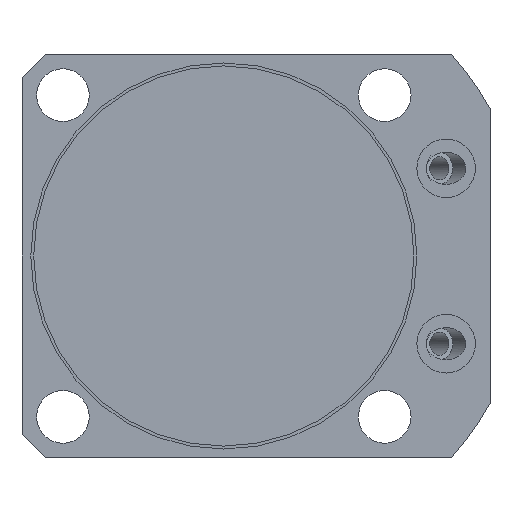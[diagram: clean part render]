
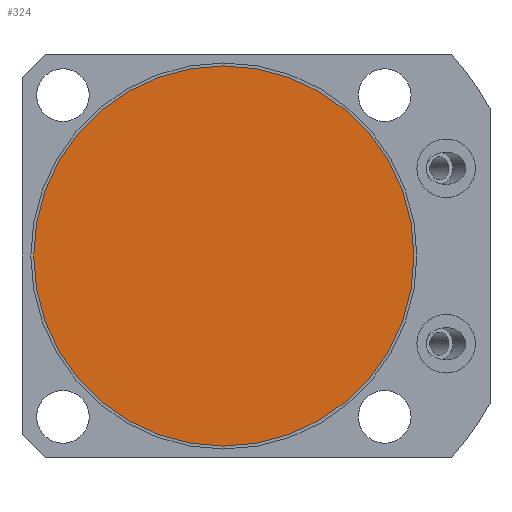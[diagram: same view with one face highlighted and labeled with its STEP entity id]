
A CAD part, front view. The second image highlights one B-rep face of the part: STEP entity #324.
In plain terms, the highlighted planar face has unit normal (0, -1, 0).
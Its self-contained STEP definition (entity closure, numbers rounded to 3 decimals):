
#324 = ADVANCED_FACE( '', ( #539 ), #540, .F. );
#539 = FACE_OUTER_BOUND( '', #891, .T. );
#540 = PLANE( '', #892 );
#891 = EDGE_LOOP( '', ( #1443 ) );
#892 = AXIS2_PLACEMENT_3D( '', #1444, #1445, #1446 );
#1443 = ORIENTED_EDGE( '', *, *, #2161, .T. );
#1444 = CARTESIAN_POINT( '', ( 0., -81., 32.5 ) );
#1445 = DIRECTION( '', ( 0., 1., 0. ) );
#1446 = DIRECTION( '', ( 0., 0., -1. ) );
#2161 = EDGE_CURVE( '', #2532, #2532, #2533, .T. );
#2532 = VERTEX_POINT( '', #3316 );
#2533 = CIRCLE( '', #3317, 32.5 );
#3316 = CARTESIAN_POINT( '', ( 0., -81., 32.5 ) );
#3317 = AXIS2_PLACEMENT_3D( '', #3993, #3994, #3995 );
#3993 = CARTESIAN_POINT( '', ( 0., -81., 0. ) );
#3994 = DIRECTION( '', ( 0., -1., 0. ) );
#3995 = DIRECTION( '', ( 0., 0., 1. ) );
